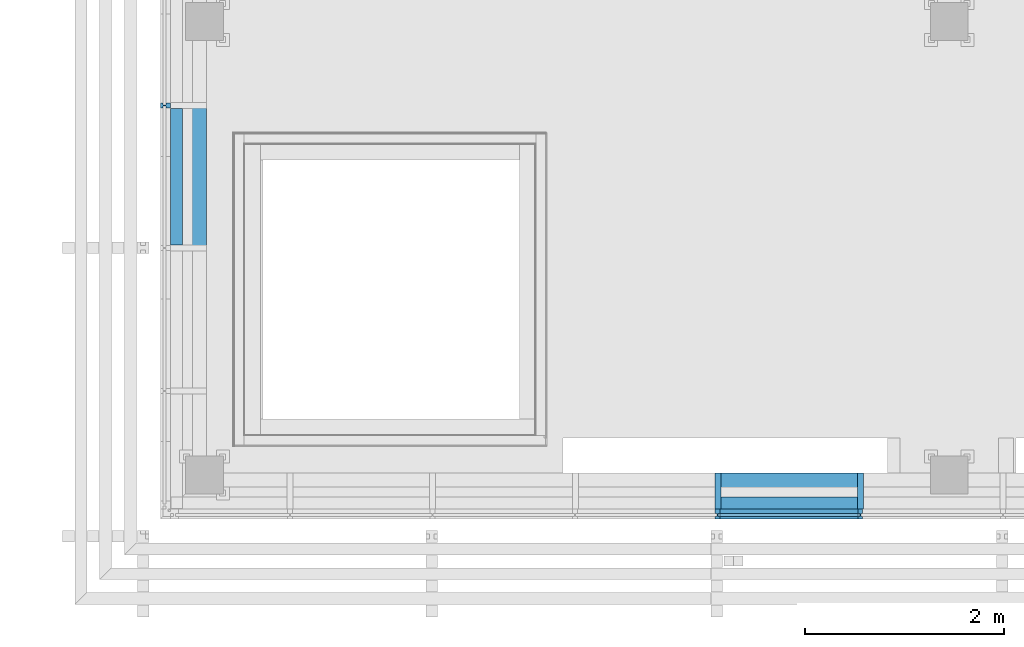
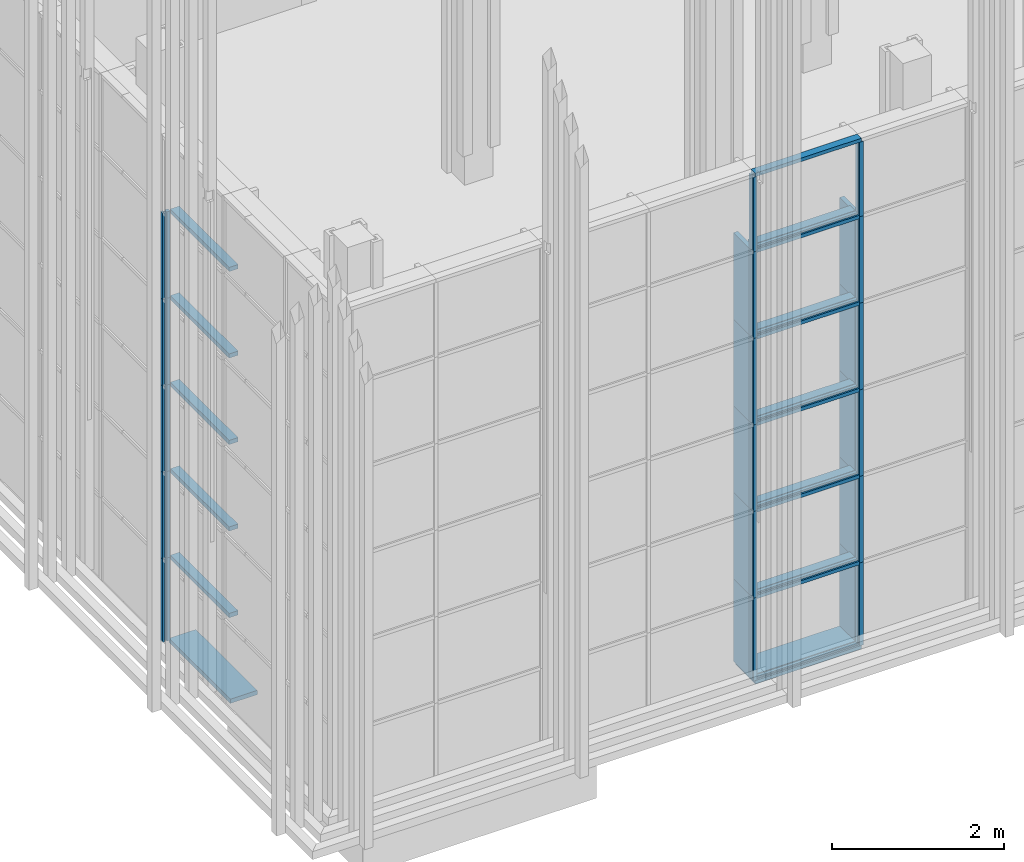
# One storey, part 5 of 260: 46 members, 2 elements without a shape of their own.
"""IFC2X3 building model written with IfcOpenShell, lengths in millimetres."""

from ifc_helpers import new_model, entity, si_unit, converted_unit, derived_unit, money_unit, direction, frame, origin_with_axes, place, context, subcontext, project, spatial, faceted_brep, source, transform, mapped, material, type_object, element, aggregate, save


model = new_model("IFC2X3")

# Units and contexts
model_context = context("Model", 3, precision=0.01, world=origin_with_axes(), true_north=direction((0.0, 1.0)))
body_context = subcontext(model_context, "Body", "Model", "MODEL_VIEW")
ifc_project = project(units=[si_unit("LENGTHUNIT", "METRE", prefix="MILLI"), si_unit("AREAUNIT", "SQUARE_METRE"), si_unit("VOLUMEUNIT", "CUBIC_METRE"), converted_unit("PLANEANGLEUNIT", "DEGREE", entity("IfcPlaneAngleMeasure", 0.0174532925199), si_unit("PLANEANGLEUNIT", "RADIAN"), dimensions=[0, 0, 0, 0, 0, 0, 0]), money_unit("EUR"), converted_unit("TIMEUNIT", "Year", entity("IfcTimeMeasure", 31556926.0), si_unit("TIMEUNIT", "SECOND"), dimensions=[0, 0, 1, 0, 0, 0, 0]), si_unit("MASSUNIT", "GRAM", prefix="KILO"), si_unit("THERMODYNAMICTEMPERATUREUNIT", "DEGREE_CELSIUS"), si_unit("LUMINOUSINTENSITYUNIT", "LUMEN"), si_unit("ENERGYUNIT", "JOULE", prefix="MEGA"), derived_unit("THERMALCONDUCTANCEUNIT", [(si_unit("POWERUNIT", "WATT"), 1), (si_unit("LENGTHUNIT", "METRE"), -1), (si_unit("THERMODYNAMICTEMPERATUREUNIT", "KELVIN"), -1)]), derived_unit("SPECIFICHEATCAPACITYUNIT", [(si_unit("ENERGYUNIT", "JOULE"), 1), (si_unit("MASSUNIT", "GRAM", prefix="KILO"), -1), (si_unit("THERMODYNAMICTEMPERATUREUNIT", "KELVIN"), -1)]), derived_unit("MASSDENSITYUNIT", [(si_unit("MASSUNIT", "GRAM", prefix="KILO"), 1), (si_unit("VOLUMEUNIT", "CUBIC_METRE"), -1)])], contexts=[model_context])

# Site, building, storey
site_placement = place(None, origin_with_axes())
site = spatial("IfcSite", under=ifc_project, at=site_placement, Name="Kolde pst 67a", CompositionType="ELEMENT")
building_placement = place(site_placement, origin_with_axes())
building = spatial("IfcBuilding", under=site, at=building_placement, Name="Riigigümnaasium", CompositionType="ELEMENT")
storey_placement = place(building_placement, origin_with_axes())
storey = spatial("IfcBuildingStorey", under=building, at=storey_placement, Name="1. korrus", CompositionType="ELEMENT", Elevation=0.0)

# Curtain wall, members
curtain_wall_type = type_object("IfcCurtainWallType", Name="Curtain Wall Type", PredefinedType="NOTDEFINED")
curtain_wall_1_placement = place(storey_placement, frame((47829.9854655, 8727.77020058, -0.000749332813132), z_axis=(0.0, 0.0, 1.0), x_axis=(1.0, 0.0, 0.0)))
curtain_wall_1 = element("IfcCurtainWall", 1, at=curtain_wall_1_placement, inside=storey, type_object=curtain_wall_type, Name="KLAASFASSAAD")
ifc_material_1 = material(Name="_METALL - alumiinium")
member_type_1 = type_object("IfcMemberType", Name="Mullion Frame 50 x 100", PredefinedType="MEMBER")
shared_shape_1 = source(origin_with_axes(), body_context, "Body", "Brep", [
    faceted_brep([(5.0, -16.5, 1230.00046362), (5.0, 16.5, 1230.00046362), (25.0, 16.5, 1230.00046362), (25.0, 40.0, 1230.00046362), (-25.0, 40.0, 1230.00046362), (-25.0, 16.5, 1230.00046362), (-5.0, 16.5, 1230.00046362), (-5.0, -16.5, 1230.00046362), (-25.0, -16.5, 1230.00046362), (-25.0, -60.0, 1230.00046362), (25.0, -60.0, 1230.00046362), (25.0, -16.5, 1230.00046362), (5.0, -16.5, 50.0), (5.0, 16.5, 50.0), (25.0, 16.5, 50.0), (25.0, 40.0, 50.0), (-25.0, 40.0, 50.0), (-25.0, 16.5, 50.0), (-5.0, 16.5, 50.0), (-5.0, -16.5, 50.0), (-25.0, -16.5, 50.0), (-25.0, -60.0, 50.0), (25.0, -60.0, 50.0), (25.0, -16.5, 50.0)], [[[0, 1, 2, 3, 4, 5, 6, 7, 8, 9, 10, 11]], [[0, 12, 13, 1]], [[1, 13, 14, 2]], [[14, 15, 3, 2]], [[4, 3, 15, 16]], [[17, 5, 4, 16]], [[5, 17, 18, 6]], [[7, 6, 18, 19]], [[8, 7, 19, 20]], [[8, 20, 21, 9]], [[10, 9, 21, 22]], [[11, 10, 22, 23]], [[11, 23, 12, 0]], [[13, 12, 23, 22, 21, 20, 19, 18, 17, 16, 15, 14]]]),
])
member_1_placement = place(curtain_wall_1_placement, frame((-17022.4150632, 15102.4241844, 0.000285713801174), z_axis=(0.0, 0.0, 1.0), x_axis=(0.999999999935, -1.14108152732e-05, 0.0)))
member_1 = element("IfcMember", 2, at=member_1_placement, type_object=member_type_1, material=ifc_material_1, Name="RF RAAM VERT-119", ObjectType="MEMBER", context=body_context, shape_type="MappedRepresentation", body=[
    mapped(shared_shape_1, transform((0.0, 0.0, 0.0), x_axis=(-1.0, 0.0, 0.0), y_axis=(0.0, -1.0, 0.0), z_axis=(0.0, 0.0, 1.0))),
])
member_2_placement = place(curtain_wall_1_placement, frame((-18452.4150631, 15102.4405019, 0.000285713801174), z_axis=(0.0, 0.0, 1.0), x_axis=(0.999999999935, -1.14108152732e-05, 0.0)))
member_2 = element("IfcMember", 3, at=member_2_placement, type_object=member_type_1, material=ifc_material_1, Name="RF RAAM VERT-125", ObjectType="MEMBER", context=body_context, shape_type="MappedRepresentation", body=[
    mapped(shared_shape_1, transform((0.0, 0.0, 0.0), x_axis=(-1.0, 0.0, 0.0), y_axis=(0.0, -1.0, 0.0), z_axis=(0.0, 0.0, 1.0))),
])
member_3_placement = place(curtain_wall_1_placement, frame((-23999.9527623, 19207.2742061, 2.49889189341e-05), z_axis=(0.0, 1.20841700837e-08, 1.0), x_axis=(-7.64768489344e-06, -0.999999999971, 1.2084170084e-08)))
member_3 = element("IfcMember", 4, at=member_3_placement, type_object=member_type_1, material=ifc_material_1, Name="RF RAAM VERT-658", ObjectType="MEMBER", context=body_context, shape_type="MappedRepresentation", body=[
    mapped(shared_shape_1, transform((0.0, 0.0, 0.0), x_axis=(-1.0, 0.0, 1.2084170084e-08), y_axis=(0.0, -1.0, 0.0), z_axis=(1.2084170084e-08, 0.0, 1.0))),
])
shared_shape_2 = source(origin_with_axes(), body_context, "Body", "Brep", [
    faceted_brep([(5.0, -16.5, 1230.0), (5.0, 16.5, 1230.0), (25.0, 16.5, 1230.0), (25.0, 40.0, 1230.0), (-25.0, 40.0, 1230.0), (-25.0, 16.5, 1230.0), (-5.0, 16.5, 1230.0), (-5.0, -16.5, 1230.0), (-25.0, -16.5, 1230.0), (-25.0, -60.0, 1230.0), (25.0, -60.0, 1230.0), (25.0, -16.5, 1230.0), (5.0, -16.5, 0.0), (5.0, 16.5, 0.0), (25.0, 16.5, 0.0), (25.0, 40.0, 0.0), (-25.0, 40.0, 0.0), (-25.0, 16.5, 0.0), (-5.0, 16.5, 0.0), (-5.0, -16.5, 0.0), (-25.0, -16.5, 0.0), (-25.0, -60.0, 0.0), (25.0, -60.0, 0.0), (25.0, -16.5, 0.0)], [[[0, 1, 2, 3, 4, 5, 6, 7, 8, 9, 10, 11]], [[0, 12, 13, 1]], [[1, 13, 14, 2]], [[14, 15, 3, 2]], [[3, 15, 16, 4]], [[17, 5, 4, 16]], [[5, 17, 18, 6]], [[7, 6, 18, 19]], [[8, 7, 19, 20]], [[8, 20, 21, 9]], [[9, 21, 22, 10]], [[11, 10, 22, 23]], [[11, 23, 12, 0]], [[13, 12, 23, 22, 21, 20, 19, 18, 17, 16, 15, 14]]]),
])
member_4_placement = place(curtain_wall_1_placement, frame((-17022.4150632, 15102.4241844, 1230.00074933), z_axis=(0.0, 0.0, 1.0), x_axis=(0.999999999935, -1.14108152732e-05, 0.0)))
member_4 = element("IfcMember", 5, at=member_4_placement, type_object=member_type_1, material=ifc_material_1, Name="RF RAAM VERT-120", ObjectType="MEMBER", context=body_context, shape_type="MappedRepresentation", body=[
    mapped(shared_shape_2, transform((0.0, 0.0, 0.0), x_axis=(-1.0, 0.0, 0.0), y_axis=(0.0, -1.0, 0.0), z_axis=(0.0, 0.0, 1.0))),
])
member_5_placement = place(curtain_wall_1_placement, frame((-17022.4150632, 15102.4241844, 2460.00074933), z_axis=(0.0, 0.0, 1.0), x_axis=(0.999999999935, -1.14108152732e-05, 0.0)))
member_5 = element("IfcMember", 6, at=member_5_placement, type_object=member_type_1, material=ifc_material_1, Name="RF RAAM VERT-121", ObjectType="MEMBER", context=body_context, shape_type="MappedRepresentation", body=[
    mapped(shared_shape_2, transform((0.0, 0.0, 0.0), x_axis=(-1.0, 0.0, 0.0), y_axis=(0.0, -1.0, 0.0), z_axis=(0.0, 0.0, 1.0))),
])
member_6_placement = place(curtain_wall_1_placement, frame((-17022.4150632, 15102.4241844, 3690.00074933), z_axis=(0.0, 0.0, 1.0), x_axis=(0.999999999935, -1.14108152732e-05, 0.0)))
member_6 = element("IfcMember", 7, at=member_6_placement, type_object=member_type_1, material=ifc_material_1, Name="RF RAAM VERT-122", ObjectType="MEMBER", context=body_context, shape_type="MappedRepresentation", body=[
    mapped(shared_shape_2, transform((0.0, 0.0, 0.0), x_axis=(-1.0, 0.0, 0.0), y_axis=(0.0, -1.0, 0.0), z_axis=(0.0, 0.0, 1.0))),
])
member_7_placement = place(curtain_wall_1_placement, frame((-17022.4150632, 15102.4241844, 4920.00074933), z_axis=(0.0, 0.0, 1.0), x_axis=(0.999999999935, -1.14108152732e-05, 0.0)))
member_7 = element("IfcMember", 8, at=member_7_placement, type_object=member_type_1, material=ifc_material_1, Name="RF RAAM VERT-123", ObjectType="MEMBER", context=body_context, shape_type="MappedRepresentation", body=[
    mapped(shared_shape_2, transform((0.0, 0.0, 0.0), x_axis=(-1.0, 0.0, 0.0), y_axis=(0.0, -1.0, 0.0), z_axis=(0.0, 0.0, 1.0))),
])
member_8_placement = place(curtain_wall_1_placement, frame((-18452.4150631, 15102.4405019, 1230.00074933), z_axis=(0.0, 0.0, 1.0), x_axis=(0.999999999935, -1.14108152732e-05, 0.0)))
member_8 = element("IfcMember", 9, at=member_8_placement, type_object=member_type_1, material=ifc_material_1, Name="RF RAAM VERT-126", ObjectType="MEMBER", context=body_context, shape_type="MappedRepresentation", body=[
    mapped(shared_shape_2, transform((0.0, 0.0, 0.0), x_axis=(-1.0, 0.0, 0.0), y_axis=(0.0, -1.0, 0.0), z_axis=(0.0, 0.0, 1.0))),
])
member_9_placement = place(curtain_wall_1_placement, frame((-18452.4150631, 15102.4405019, 2460.00074933), z_axis=(0.0, 0.0, 1.0), x_axis=(0.999999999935, -1.14108152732e-05, 0.0)))
member_9 = element("IfcMember", 10, at=member_9_placement, type_object=member_type_1, material=ifc_material_1, Name="RF RAAM VERT-127", ObjectType="MEMBER", context=body_context, shape_type="MappedRepresentation", body=[
    mapped(shared_shape_2, transform((0.0, 0.0, 0.0), x_axis=(-1.0, 0.0, 0.0), y_axis=(0.0, -1.0, 0.0), z_axis=(0.0, 0.0, 1.0))),
])
member_10_placement = place(curtain_wall_1_placement, frame((-18452.4150631, 15102.4405019, 3690.00074933), z_axis=(0.0, 0.0, 1.0), x_axis=(0.999999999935, -1.14108152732e-05, 0.0)))
member_10 = element("IfcMember", 11, at=member_10_placement, type_object=member_type_1, material=ifc_material_1, Name="RF RAAM VERT-128", ObjectType="MEMBER", context=body_context, shape_type="MappedRepresentation", body=[
    mapped(shared_shape_2, transform((0.0, 0.0, 0.0), x_axis=(-1.0, 0.0, 0.0), y_axis=(0.0, -1.0, 0.0), z_axis=(0.0, 0.0, 1.0))),
])
member_11_placement = place(curtain_wall_1_placement, frame((-18452.4150631, 15102.4405019, 4920.00074933), z_axis=(0.0, 0.0, 1.0), x_axis=(0.999999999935, -1.14108152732e-05, 0.0)))
member_11 = element("IfcMember", 12, at=member_11_placement, type_object=member_type_1, material=ifc_material_1, Name="RF RAAM VERT-129", ObjectType="MEMBER", context=body_context, shape_type="MappedRepresentation", body=[
    mapped(shared_shape_2, transform((0.0, 0.0, 0.0), x_axis=(-1.0, 0.0, 0.0), y_axis=(0.0, -1.0, 0.0), z_axis=(0.0, 0.0, 1.0))),
])
member_12_placement = place(curtain_wall_1_placement, frame((-23999.9527623, 19207.274221, 4920.00074933), z_axis=(0.0, -1.20841772e-08, 1.0), x_axis=(-7.64768489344e-06, -0.999999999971, -1.20841772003e-08)))
member_12 = element("IfcMember", 13, at=member_12_placement, type_object=member_type_1, material=ifc_material_1, Name="RF RAAM VERT-654", ObjectType="MEMBER", context=body_context, shape_type="MappedRepresentation", body=[
    mapped(shared_shape_2, transform((0.0, 0.0, 0.0), x_axis=(-1.0, 0.0, -1.20841772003e-08), y_axis=(0.0, -1.0, 0.0), z_axis=(-1.20841772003e-08, 0.0, 1.0))),
])
member_13_placement = place(curtain_wall_1_placement, frame((-23999.9527623, 19207.274221, 3690.00074933), z_axis=(0.0, 0.0, 1.0), x_axis=(-7.64768489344e-06, -0.999999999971, 0.0)))
member_13 = element("IfcMember", 14, at=member_13_placement, type_object=member_type_1, material=ifc_material_1, Name="RF RAAM VERT-655", ObjectType="MEMBER", context=body_context, shape_type="MappedRepresentation", body=[
    mapped(shared_shape_2, transform((0.0, 0.0, 0.0), x_axis=(-1.0, 0.0, 0.0), y_axis=(0.0, -1.0, 0.0), z_axis=(0.0, 0.0, 1.0))),
])
member_14_placement = place(curtain_wall_1_placement, frame((-23999.9527623, 19207.274221, 2460.00074933), z_axis=(0.0, 0.0, 1.0), x_axis=(-7.64768489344e-06, -0.999999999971, 0.0)))
member_14 = element("IfcMember", 15, at=member_14_placement, type_object=member_type_1, material=ifc_material_1, Name="RF RAAM VERT-656", ObjectType="MEMBER", context=body_context, shape_type="MappedRepresentation", body=[
    mapped(shared_shape_2, transform((0.0, 0.0, 0.0), x_axis=(-1.0, 0.0, 0.0), y_axis=(0.0, -1.0, 0.0), z_axis=(0.0, 0.0, 1.0))),
])
member_15_placement = place(curtain_wall_1_placement, frame((-23999.9527623, 19207.274221, 1230.00074933), z_axis=(0.0, 0.0, 1.0), x_axis=(-7.64768489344e-06, -0.999999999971, 0.0)))
member_15 = element("IfcMember", 16, at=member_15_placement, type_object=member_type_1, material=ifc_material_1, Name="RF RAAM VERT-657", ObjectType="MEMBER", context=body_context, shape_type="MappedRepresentation", body=[
    mapped(shared_shape_2, transform((0.0, 0.0, 0.0), x_axis=(-1.0, 0.0, 0.0), y_axis=(0.0, -1.0, 0.0), z_axis=(0.0, 0.0, 1.0))),
])
member_type_2 = type_object("IfcMemberType", Name="Boundary Frame 50 x 100", PredefinedType="MEMBER")
shared_shape_3 = source(origin_with_axes(), body_context, "Body", "Brep", [
    faceted_brep([(-30.0, -16.5, 1430.0), (-50.0, -16.5, 1430.0), (-50.0, -60.0, 1430.0), (0.0, -60.0, 1430.0), (0.0, 40.0, 1430.0), (-50.0, 40.0, 1430.0), (-50.0, 16.5, 1430.0), (-30.0, 16.5, 1430.0), (-30.0, -16.5, 0.0), (-50.0, -16.5, 0.0), (-50.0, -60.0, 0.0), (0.0, -60.0, 0.0), (0.0, 40.0, 0.0), (-50.0, 40.0, 0.0), (-50.0, 16.5, 0.0), (-30.0, 16.5, 0.0)], [[[0, 1, 2, 3, 4, 5, 6, 7]], [[0, 8, 9, 1]], [[9, 10, 2, 1]], [[10, 11, 3, 2]], [[11, 12, 4, 3]], [[12, 13, 5, 4]], [[6, 5, 13, 14]], [[14, 15, 7, 6]], [[7, 15, 8, 0]], [[8, 15, 14, 13, 12, 11, 10, 9]]]),
])
member_16_placement = place(curtain_wall_1_placement, frame((-17022.4150632, 15102.4241844, 0.000285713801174), z_axis=(-0.999999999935, 1.14108152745e-05, 0.0), x_axis=(0.0, 0.0, 1.0)))
member_16 = element("IfcMember", 17, at=member_16_placement, type_object=member_type_2, material=ifc_material_1, Name="RF RAAM SERV-601", ObjectType="MEMBER", context=body_context, shape_type="MappedRepresentation", body=[
    mapped(shared_shape_3, transform((0.0, 0.0, 0.0), x_axis=(-1.0, 0.0, 0.0), y_axis=(0.0, -1.0, 0.0), z_axis=(0.0, 0.0, 1.0))),
])
member_17_placement = place(curtain_wall_1_placement, frame((-18452.4150631, 15102.4405019, 7259.99992735), z_axis=(0.999999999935, -1.14108152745e-05, 0.0), x_axis=(0.0, 0.0, -1.0)))
member_17 = element("IfcMember", 18, at=member_17_placement, type_object=member_type_2, material=ifc_material_1, Name="RF RAAM SERV-616", ObjectType="MEMBER", context=body_context, shape_type="MappedRepresentation", body=[
    mapped(shared_shape_3, transform((0.0, 0.0, 0.0), x_axis=(-1.0, 0.0, 0.0), y_axis=(0.0, -1.0, 0.0), z_axis=(0.0, 0.0, 1.0))),
])
member_type_3 = type_object("IfcMemberType", Name="Transom Frame 50 x 100", PredefinedType="MEMBER")
shared_shape_4 = source(origin_with_axes(), body_context, "Body", "Brep", [
    faceted_brep([(5.0, -16.5, 1405.0), (5.0, 16.5, 1405.0), (25.0, 16.5, 1405.0), (25.0, 40.0, 1405.0), (-25.0, 40.0, 1405.0), (-25.0, 16.5, 1405.0), (-5.0, 16.5, 1405.0), (-5.0, -16.5, 1405.0), (-25.0, -16.5, 1405.0), (-25.0, -60.0, 1405.0), (25.0, -60.0, 1405.0), (25.0, -16.5, 1405.0), (5.0, -16.5, 25.0), (5.0, 16.5, 25.0), (25.0, 16.5, 25.0), (25.0, 40.0, 25.0), (-25.0, 40.0, 25.0), (-25.0, 16.5, 25.0), (-5.0, 16.5, 25.0), (-5.0, -16.5, 25.0), (-25.0, -16.5, 25.0), (-25.0, -60.0, 25.0), (25.0, -60.0, 25.0), (25.0, -16.5, 25.0)], [[[0, 1, 2, 3, 4, 5, 6, 7, 8, 9, 10, 11]], [[0, 12, 13, 1]], [[1, 13, 14, 2]], [[14, 15, 3, 2]], [[4, 3, 15, 16]], [[17, 5, 4, 16]], [[5, 17, 18, 6]], [[7, 6, 18, 19]], [[8, 7, 19, 20]], [[8, 20, 21, 9]], [[10, 9, 21, 22]], [[11, 10, 22, 23]], [[11, 23, 12, 0]], [[13, 12, 23, 22, 21, 20, 19, 18, 17, 16, 15, 14]]]),
])
member_18_placement = place(curtain_wall_1_placement, frame((-17022.4150632, 15102.4241844, 1230.00074933), z_axis=(-0.999999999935, 1.14108152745e-05, 0.0), x_axis=(0.0, 0.0, 1.0)))
member_18 = element("IfcMember", 19, at=member_18_placement, type_object=member_type_3, material=ifc_material_1, Name="RF RAAM HOR-037", ObjectType="MEMBER", context=body_context, shape_type="MappedRepresentation", body=[
    mapped(shared_shape_4, transform((0.0, 0.0, 0.0), x_axis=(-1.0, 0.0, 0.0), y_axis=(0.0, -1.0, 0.0), z_axis=(0.0, 0.0, 1.0))),
])
member_19_placement = place(curtain_wall_1_placement, frame((-17022.4150632, 15102.4241844, 2460.00074933), z_axis=(-0.999999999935, 1.14108152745e-05, 0.0), x_axis=(0.0, 0.0, 1.0)))
member_19 = element("IfcMember", 20, at=member_19_placement, type_object=member_type_3, material=ifc_material_1, Name="RF RAAM HOR-054", ObjectType="MEMBER", context=body_context, shape_type="MappedRepresentation", body=[
    mapped(shared_shape_4, transform((0.0, 0.0, 0.0), x_axis=(-1.0, 0.0, 0.0), y_axis=(0.0, -1.0, 0.0), z_axis=(0.0, 0.0, 1.0))),
])
member_20_placement = place(curtain_wall_1_placement, frame((-17022.4150632, 15102.4241844, 3690.00074933), z_axis=(-0.999999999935, 1.14108152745e-05, 0.0), x_axis=(0.0, 0.0, 1.0)))
member_20 = element("IfcMember", 21, at=member_20_placement, type_object=member_type_3, material=ifc_material_1, Name="RF RAAM HOR-071", ObjectType="MEMBER", context=body_context, shape_type="MappedRepresentation", body=[
    mapped(shared_shape_4, transform((0.0, 0.0, 0.0), x_axis=(-1.0, 0.0, 0.0), y_axis=(0.0, -1.0, 0.0), z_axis=(0.0, 0.0, 1.0))),
])
member_21_placement = place(curtain_wall_1_placement, frame((-17022.4150632, 15102.4241844, 4920.00074933), z_axis=(-0.999999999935, 1.14108152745e-05, 0.0), x_axis=(0.0, 0.0, 1.0)))
member_21 = element("IfcMember", 22, at=member_21_placement, type_object=member_type_3, material=ifc_material_1, Name="RF RAAM HOR-088", ObjectType="MEMBER", context=body_context, shape_type="MappedRepresentation", body=[
    mapped(shared_shape_4, transform((0.0, 0.0, 0.0), x_axis=(-1.0, 0.0, 0.0), y_axis=(0.0, -1.0, 0.0), z_axis=(0.0, 0.0, 1.0))),
])
member_22_placement = place(curtain_wall_1_placement, frame((-17022.4150632, 15102.4241844, 6150.00074933), z_axis=(-0.999999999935, 1.14108152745e-05, 0.0), x_axis=(0.0, 0.0, 1.0)))
member_22 = element("IfcMember", 23, at=member_22_placement, type_object=member_type_3, material=ifc_material_1, Name="RF RAAM HOR-105", ObjectType="MEMBER", context=body_context, shape_type="MappedRepresentation", body=[
    mapped(shared_shape_4, transform((0.0, 0.0, 0.0), x_axis=(-1.0, 0.0, 0.0), y_axis=(0.0, -1.0, 0.0), z_axis=(0.0, 0.0, 1.0))),
])
shared_shape_5 = source(origin_with_axes(), body_context, "Body", "Brep", [
    faceted_brep([(5.0, -16.5, 1059.99917802), (5.0, 16.5, 1059.99917802), (25.0, 16.5, 1059.99917802), (25.0, 40.0, 1059.99917802), (-25.0, 40.0, 1059.99917802), (-25.0, 16.5, 1059.99917802), (-5.0, 16.5, 1059.99917802), (-5.0, -16.5, 1059.99917802), (-25.0, -16.5, 1059.99917802), (-25.0, -60.0, 1059.99917802), (25.0, -60.0, 1059.99917802), (25.0, -16.5, 1059.99917802), (5.0, -16.5, 0.0), (5.0, 16.5, 0.0), (25.0, 16.5, 0.0), (25.0, 40.0, 0.0), (-25.0, 40.0, 0.0), (-25.0, 16.5, 0.0), (-5.0, 16.5, 0.0), (-5.0, -16.5, 0.0), (-25.0, -16.5, 0.0), (-25.0, -60.0, 0.0), (25.0, -60.0, 0.0), (25.0, -16.5, 0.0)], [[[0, 1, 2, 3, 4, 5, 6, 7, 8, 9, 10, 11]], [[0, 12, 13, 1]], [[1, 13, 14, 2]], [[14, 15, 3, 2]], [[3, 15, 16, 4]], [[17, 5, 4, 16]], [[5, 17, 18, 6]], [[7, 6, 18, 19]], [[8, 7, 19, 20]], [[8, 20, 21, 9]], [[9, 21, 22, 10]], [[11, 10, 22, 23]], [[11, 23, 12, 0]], [[13, 12, 23, 22, 21, 20, 19, 18, 17, 16, 15, 14]]]),
])
member_23_placement = place(curtain_wall_1_placement, frame((-17022.4150632, 15102.4241844, 6150.00074933), z_axis=(0.0, 0.0, 1.0), x_axis=(0.999999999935, -1.14108152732e-05, 0.0)))
member_23 = element("IfcMember", 24, at=member_23_placement, type_object=member_type_1, material=ifc_material_1, Name="RF RAAM VERT-085", ObjectType="MEMBER", context=body_context, shape_type="MappedRepresentation", body=[
    mapped(shared_shape_5, transform((0.0, 0.0, 0.0), x_axis=(-1.0, 0.0, 0.0), y_axis=(0.0, -1.0, 0.0), z_axis=(0.0, 0.0, 1.0))),
])
member_24_placement = place(curtain_wall_1_placement, frame((-18452.4150631, 15102.4405019, 6150.00074933), z_axis=(0.0, 0.0, 1.0), x_axis=(0.999999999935, -1.14108152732e-05, 0.0)))
member_24 = element("IfcMember", 25, at=member_24_placement, type_object=member_type_1, material=ifc_material_1, Name="RF RAAM VERT-086", ObjectType="MEMBER", context=body_context, shape_type="MappedRepresentation", body=[
    mapped(shared_shape_5, transform((0.0, 0.0, 0.0), x_axis=(-1.0, 0.0, 0.0), y_axis=(0.0, -1.0, 0.0), z_axis=(0.0, 0.0, 1.0))),
])
aggregate(curtain_wall_1, [member_1, member_4, member_5, member_6, member_7, member_2, member_8, member_9, member_10, member_11, member_16, member_18, member_19, member_20, member_21, member_22, member_12, member_13, member_14, member_15, member_3, member_23, member_24, member_17])

curtain_wall_2_placement = place(storey_placement, frame((23890.0026791, 27220.1832522, -0.000253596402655), z_axis=(0.0, 0.0, 1.0), x_axis=(1.0, 0.0, 0.0)))
curtain_wall_2 = element("IfcCurtainWall", 26, at=curtain_wall_2_placement, inside=storey, type_object=curtain_wall_type, Name="Klaasfassaadi puitkarkass")
ifc_material_2 = material(Name="_KANDETARIND - liimpuit vastavalt EK osale")
member_type_4 = type_object("IfcMemberType", Name="Transom Frame 60 x 120", PredefinedType="MEMBER")
shared_shape_6 = source(origin_with_axes(), body_context, "Body", "Brep", [
    faceted_brep([(-30.0, 0.0, 30.0), (-30.0, -120.0, 30.0), (-30.0, -120.0, 1400.0), (-30.0, 0.0, 1400.0), (30.0, 0.0, 30.0), (30.0, -120.0, 30.0), (30.0, -120.0, 1400.0), (30.0, 0.0, 1400.0)], [[[0, 1, 2, 3]], [[1, 0, 4, 5]], [[1, 5, 6, 2]], [[2, 6, 7, 3]], [[4, 0, 3, 7]], [[5, 4, 7, 6]]]),
])
member_25_placement = place(curtain_wall_2_placement, frame((-3.66502916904e-06, -715.0, 1230.0002536), z_axis=(5.12591492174e-09, 1.0, 0.0), x_axis=(0.0, 0.0, 1.0)))
member_25 = element("IfcMember", 27, at=member_25_placement, type_object=member_type_4, material=ifc_material_2, Name="RF RAAM HOR-648", ObjectType="MEMBER", context=body_context, shape_type="MappedRepresentation", body=[
    mapped(shared_shape_6, transform((0.0, 0.0, 0.0), x_axis=(-1.0, 0.0, 0.0), y_axis=(0.0, -1.0, -5.12591479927e-09), z_axis=(0.0, -5.12591479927e-09, 1.0))),
])
member_26_placement = place(curtain_wall_2_placement, frame((-3.66502916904e-06, -715.0, 2460.0002536), z_axis=(5.12591492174e-09, 1.0, 0.0), x_axis=(0.0, 0.0, 1.0)))
member_26 = element("IfcMember", 28, at=member_26_placement, type_object=member_type_4, material=ifc_material_2, Name="RF RAAM HOR-648", ObjectType="MEMBER", context=body_context, shape_type="MappedRepresentation", body=[
    mapped(shared_shape_6, transform((0.0, 0.0, 0.0), x_axis=(-1.0, 0.0, 0.0), y_axis=(0.0, -1.0, -5.12591479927e-09), z_axis=(0.0, -5.12591479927e-09, 1.0))),
])
member_27_placement = place(curtain_wall_2_placement, frame((-3.66502916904e-06, -715.0, 3690.0002536), z_axis=(5.12591492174e-09, 1.0, 0.0), x_axis=(0.0, 0.0, 1.0)))
member_27 = element("IfcMember", 29, at=member_27_placement, type_object=member_type_4, material=ifc_material_2, Name="RF RAAM HOR-648", ObjectType="MEMBER", context=body_context, shape_type="MappedRepresentation", body=[
    mapped(shared_shape_6, transform((0.0, 0.0, 0.0), x_axis=(-1.0, 0.0, 0.0), y_axis=(0.0, -1.0, -5.12591479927e-09), z_axis=(0.0, -5.12591479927e-09, 1.0))),
])
member_28_placement = place(curtain_wall_2_placement, frame((-3.66502916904e-06, -715.0, 4920.0002536), z_axis=(5.12591492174e-09, 1.0, 0.0), x_axis=(0.0, 0.0, 1.0)))
member_28 = element("IfcMember", 30, at=member_28_placement, type_object=member_type_4, material=ifc_material_2, Name="RF RAAM HOR-648", ObjectType="MEMBER", context=body_context, shape_type="MappedRepresentation", body=[
    mapped(shared_shape_6, transform((0.0, 0.0, 0.0), x_axis=(-1.0, 0.0, 0.0), y_axis=(0.0, -1.0, -5.12591479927e-09), z_axis=(0.0, -5.12591479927e-09, 1.0))),
])
member_29_placement = place(curtain_wall_2_placement, frame((-3.66502916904e-06, -715.0, 6150.0002536), z_axis=(5.12591492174e-09, 1.0, 0.0), x_axis=(0.0, 0.0, 1.0)))
member_29 = element("IfcMember", 31, at=member_29_placement, type_object=member_type_4, material=ifc_material_2, Name="RF RAAM HOR-648", ObjectType="MEMBER", context=body_context, shape_type="MappedRepresentation", body=[
    mapped(shared_shape_6, transform((0.0, 0.0, 0.0), x_axis=(-1.0, 0.0, 0.0), y_axis=(0.0, -1.0, -5.12591479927e-09), z_axis=(0.0, -5.12591479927e-09, 1.0))),
])
member_30_placement = place(curtain_wall_2_placement, frame((6919.37705572, -3330.16844661, 1230.0002536), z_axis=(-1.0, 0.0, 0.0), x_axis=(0.0, 0.0, 1.0)))
member_30 = element("IfcMember", 32, at=member_30_placement, type_object=member_type_4, material=ifc_material_2, Name="RF RAAM HOR-648", ObjectType="MEMBER", context=body_context, shape_type="MappedRepresentation", body=[
    mapped(shared_shape_6, transform((0.0, 0.0, 0.0), x_axis=(-1.0, 0.0, 0.0), y_axis=(0.0, -1.0, 0.0), z_axis=(0.0, 0.0, 1.0))),
])
member_31_placement = place(curtain_wall_2_placement, frame((6919.37705572, -3330.16844661, 2460.0002536), z_axis=(-1.0, 0.0, 0.0), x_axis=(0.0, 0.0, 1.0)))
member_31 = element("IfcMember", 33, at=member_31_placement, type_object=member_type_4, material=ifc_material_2, Name="RF RAAM HOR-648", ObjectType="MEMBER", context=body_context, shape_type="MappedRepresentation", body=[
    mapped(shared_shape_6, transform((0.0, 0.0, 0.0), x_axis=(-1.0, 0.0, 0.0), y_axis=(0.0, -1.0, 0.0), z_axis=(0.0, 0.0, 1.0))),
])
member_32_placement = place(curtain_wall_2_placement, frame((6919.37705572, -3330.16844661, 3690.0002536), z_axis=(-1.0, 0.0, 0.0), x_axis=(0.0, 0.0, 1.0)))
member_32 = element("IfcMember", 34, at=member_32_placement, type_object=member_type_4, material=ifc_material_2, Name="RF RAAM HOR-648", ObjectType="MEMBER", context=body_context, shape_type="MappedRepresentation", body=[
    mapped(shared_shape_6, transform((0.0, 0.0, 0.0), x_axis=(-1.0, 0.0, 0.0), y_axis=(0.0, -1.0, 0.0), z_axis=(0.0, 0.0, 1.0))),
])
member_33_placement = place(curtain_wall_2_placement, frame((6919.37705572, -3330.16844661, 4920.0002536), z_axis=(-1.0, 0.0, 0.0), x_axis=(0.0, 0.0, 1.0)))
member_33 = element("IfcMember", 35, at=member_33_placement, type_object=member_type_4, material=ifc_material_2, Name="RF RAAM HOR-648", ObjectType="MEMBER", context=body_context, shape_type="MappedRepresentation", body=[
    mapped(shared_shape_6, transform((0.0, 0.0, 0.0), x_axis=(-1.0, 0.0, 0.0), y_axis=(0.0, -1.0, 0.0), z_axis=(0.0, 0.0, 1.0))),
])
member_34_placement = place(curtain_wall_2_placement, frame((6919.37705572, -3330.16844661, 6150.0002536), z_axis=(-1.0, 0.0, 0.0), x_axis=(0.0, 0.0, 1.0)))
member_34 = element("IfcMember", 36, at=member_34_placement, type_object=member_type_4, material=ifc_material_2, Name="RF RAAM HOR-648", ObjectType="MEMBER", context=body_context, shape_type="MappedRepresentation", body=[
    mapped(shared_shape_6, transform((0.0, 0.0, 0.0), x_axis=(-1.0, 0.0, 0.0), y_axis=(0.0, -1.0, 0.0), z_axis=(0.0, 0.0, 1.0))),
])
member_type_5 = type_object("IfcMemberType", Name="Mullion Frame 60 x 360", PredefinedType="MEMBER")
shared_shape_7 = source(origin_with_axes(), body_context, "Body", "Brep", [
    faceted_brep([(-30.0, 0.0, 60.0), (-30.0, -360.0, 60.0), (-30.0, -360.0, 1230.0002536), (-30.0, 0.0, 1230.0002536), (30.0, 0.0, 60.0), (30.0, -360.0, 60.0), (30.0, -360.0, 1230.0002536), (30.0, 0.0, 1230.0002536)], [[[0, 1, 2, 3]], [[1, 0, 4, 5]], [[1, 5, 6, 2]], [[2, 6, 7, 3]], [[4, 0, 3, 7]], [[5, 4, 7, 6]]]),
])
member_35_placement = place(curtain_wall_2_placement, frame((6919.37705572, -3330.16844661, 0.000124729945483), z_axis=(0.0, 0.0, 1.0), x_axis=(1.0, 0.0, 0.0)))
member_35 = element("IfcMember", 37, at=member_35_placement, type_object=member_type_5, material=ifc_material_2, Name="RF RAAM VERT-837", ObjectType="MEMBER", context=body_context, shape_type="MappedRepresentation", body=[
    mapped(shared_shape_7, transform((0.0, 0.0, 0.0), x_axis=(-1.0, 0.0, 0.0), y_axis=(0.0, -1.0, 0.0), z_axis=(0.0, 0.0, 1.0))),
])
member_36_placement = place(curtain_wall_2_placement, frame((5489.37705572, -3330.16844674, 0.000124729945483), z_axis=(0.0, 0.0, 1.0), x_axis=(1.0, 0.0, 0.0)))
member_36 = element("IfcMember", 38, at=member_36_placement, type_object=member_type_5, material=ifc_material_2, Name="RF RAAM VERT-837", ObjectType="MEMBER", context=body_context, shape_type="MappedRepresentation", body=[
    mapped(shared_shape_7, transform((0.0, 0.0, 0.0), x_axis=(-1.0, 0.0, 0.0), y_axis=(0.0, -1.0, 0.0), z_axis=(0.0, 0.0, 1.0))),
])
shared_shape_8 = source(origin_with_axes(), body_context, "Body", "Brep", [
    faceted_brep([(-30.0, -360.0, 0.0), (-30.0, -360.0, 1230.0), (-30.0, 0.0, 1230.0), (-30.0, 0.0, 0.0), (30.0, -360.0, 0.0), (30.0, -360.0, 1230.0), (30.0, 0.0, 1230.0), (30.0, 0.0, 0.0)], [[[0, 1, 2, 3]], [[4, 5, 1, 0]], [[1, 5, 6, 2]], [[3, 2, 6, 7]], [[0, 3, 7, 4]], [[7, 6, 5, 4]]]),
])
member_37_placement = place(curtain_wall_2_placement, frame((6919.37705572, -3330.16844661, 1230.0002536), z_axis=(0.0, 0.0, 1.0), x_axis=(1.0, 0.0, 0.0)))
member_37 = element("IfcMember", 39, at=member_37_placement, type_object=member_type_5, material=ifc_material_2, Name="RF RAAM VERT-837", ObjectType="MEMBER", context=body_context, shape_type="MappedRepresentation", body=[
    mapped(shared_shape_8, transform((0.0, 0.0, 0.0), x_axis=(-1.0, 0.0, 0.0), y_axis=(0.0, -1.0, 0.0), z_axis=(0.0, 0.0, 1.0))),
])
member_38_placement = place(curtain_wall_2_placement, frame((6919.37705572, -3330.16844661, 2460.0002536), z_axis=(0.0, 0.0, 1.0), x_axis=(1.0, 0.0, 0.0)))
member_38 = element("IfcMember", 40, at=member_38_placement, type_object=member_type_5, material=ifc_material_2, Name="RF RAAM VERT-837", ObjectType="MEMBER", context=body_context, shape_type="MappedRepresentation", body=[
    mapped(shared_shape_8, transform((0.0, 0.0, 0.0), x_axis=(-1.0, 0.0, 0.0), y_axis=(0.0, -1.0, 0.0), z_axis=(0.0, 0.0, 1.0))),
])
member_39_placement = place(curtain_wall_2_placement, frame((6919.37705572, -3330.16844661, 3690.0002536), z_axis=(0.0, 0.0, 1.0), x_axis=(1.0, 0.0, 0.0)))
member_39 = element("IfcMember", 41, at=member_39_placement, type_object=member_type_5, material=ifc_material_2, Name="RF RAAM VERT-837", ObjectType="MEMBER", context=body_context, shape_type="MappedRepresentation", body=[
    mapped(shared_shape_8, transform((0.0, 0.0, 0.0), x_axis=(-1.0, 0.0, 0.0), y_axis=(0.0, -1.0, 0.0), z_axis=(0.0, 0.0, 1.0))),
])
member_40_placement = place(curtain_wall_2_placement, frame((6919.37705572, -3330.16844661, 4920.0002536), z_axis=(0.0, 0.0, 1.0), x_axis=(1.0, 0.0, 0.0)))
member_40 = element("IfcMember", 42, at=member_40_placement, type_object=member_type_5, material=ifc_material_2, Name="RF RAAM VERT-837", ObjectType="MEMBER", context=body_context, shape_type="MappedRepresentation", body=[
    mapped(shared_shape_8, transform((0.0, 0.0, 0.0), x_axis=(-1.0, 0.0, 0.0), y_axis=(0.0, -1.0, 0.0), z_axis=(0.0, 0.0, 1.0))),
])
member_41_placement = place(curtain_wall_2_placement, frame((5489.37705572, -3330.16844674, 1230.0002536), z_axis=(0.0, 0.0, 1.0), x_axis=(1.0, 0.0, 0.0)))
member_41 = element("IfcMember", 43, at=member_41_placement, type_object=member_type_5, material=ifc_material_2, Name="RF RAAM VERT-837", ObjectType="MEMBER", context=body_context, shape_type="MappedRepresentation", body=[
    mapped(shared_shape_8, transform((0.0, 0.0, 0.0), x_axis=(-1.0, 0.0, 0.0), y_axis=(0.0, -1.0, 0.0), z_axis=(0.0, 0.0, 1.0))),
])
member_42_placement = place(curtain_wall_2_placement, frame((5489.37705572, -3330.16844674, 2460.0002536), z_axis=(0.0, 0.0, 1.0), x_axis=(1.0, 0.0, 0.0)))
member_42 = element("IfcMember", 44, at=member_42_placement, type_object=member_type_5, material=ifc_material_2, Name="RF RAAM VERT-837", ObjectType="MEMBER", context=body_context, shape_type="MappedRepresentation", body=[
    mapped(shared_shape_8, transform((0.0, 0.0, 0.0), x_axis=(-1.0, 0.0, 0.0), y_axis=(0.0, -1.0, 0.0), z_axis=(0.0, 0.0, 1.0))),
])
member_43_placement = place(curtain_wall_2_placement, frame((5489.37705572, -3330.16844674, 3690.0002536), z_axis=(0.0, 0.0, 1.0), x_axis=(1.0, 0.0, 0.0)))
member_43 = element("IfcMember", 45, at=member_43_placement, type_object=member_type_5, material=ifc_material_2, Name="RF RAAM VERT-837", ObjectType="MEMBER", context=body_context, shape_type="MappedRepresentation", body=[
    mapped(shared_shape_8, transform((0.0, 0.0, 0.0), x_axis=(-1.0, 0.0, 0.0), y_axis=(0.0, -1.0, 0.0), z_axis=(0.0, 0.0, 1.0))),
])
member_44_placement = place(curtain_wall_2_placement, frame((5489.37705572, -3330.16844674, 4920.0002536), z_axis=(0.0, 0.0, 1.0), x_axis=(1.0, 0.0, 0.0)))
member_44 = element("IfcMember", 46, at=member_44_placement, type_object=member_type_5, material=ifc_material_2, Name="RF RAAM VERT-837", ObjectType="MEMBER", context=body_context, shape_type="MappedRepresentation", body=[
    mapped(shared_shape_8, transform((0.0, 0.0, 0.0), x_axis=(-1.0, 0.0, 0.0), y_axis=(0.0, -1.0, 0.0), z_axis=(0.0, 0.0, 1.0))),
])
member_type_6 = type_object("IfcMemberType", Name="Boundary Frame 60 x 360", PredefinedType="MEMBER")
shared_shape_9 = source(origin_with_axes(), body_context, "Body", "Brep", [
    faceted_brep([(-60.0, -360.0, 0.0), (-60.0, -360.0, 1430.0), (-60.0, 0.0, 1430.0), (-60.0, 0.0, 0.0), (0.0, -360.0, 0.0), (0.0, -360.0, 1430.0), (0.0, 0.0, 1430.0), (0.0, 0.0, 0.0)], [[[0, 1, 2, 3]], [[4, 5, 1, 0]], [[1, 5, 6, 2]], [[3, 2, 6, 7]], [[0, 3, 7, 4]], [[7, 6, 5, 4]]]),
])
member_45_placement = place(curtain_wall_2_placement, frame((-3.66502916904e-06, -715.0, 0.0), z_axis=(5.12591492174e-09, 1.0, 0.0), x_axis=(0.0, 0.0, 1.0)))
member_45 = element("IfcMember", 47, at=member_45_placement, type_object=member_type_6, material=ifc_material_2, Name="RF RAAM SERV-711", ObjectType="MEMBER", context=body_context, shape_type="MappedRepresentation", body=[
    mapped(shared_shape_9, transform((0.0, 0.0, 0.0), x_axis=(-1.0, 0.0, 0.0), y_axis=(0.0, -1.0, -5.12591479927e-09), z_axis=(0.0, -5.12591479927e-09, 1.0))),
])
member_46_placement = place(curtain_wall_2_placement, frame((6919.37705572, -3330.16844661, 0.000124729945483), z_axis=(-1.0, 0.0, 0.0), x_axis=(0.0, 0.0, 1.0)))
member_46 = element("IfcMember", 48, at=member_46_placement, type_object=member_type_6, material=ifc_material_2, Name="RF RAAM SERV-674", ObjectType="MEMBER", context=body_context, shape_type="MappedRepresentation", body=[
    mapped(shared_shape_9, transform((0.0, 0.0, 0.0), x_axis=(-1.0, 0.0, 0.0), y_axis=(0.0, -1.0, 0.0), z_axis=(0.0, 0.0, 1.0))),
])
aggregate(curtain_wall_2, [member_45, member_25, member_26, member_27, member_28, member_29, member_35, member_37, member_38, member_39, member_40, member_36, member_41, member_42, member_43, member_44, member_46, member_30, member_31, member_32, member_33, member_34])

save(model, "model.ifc")
